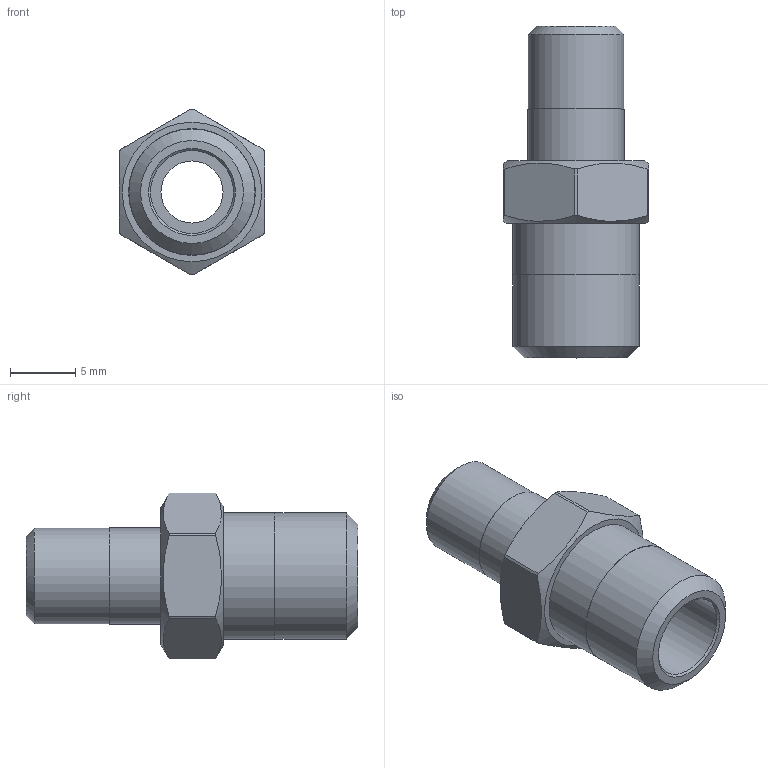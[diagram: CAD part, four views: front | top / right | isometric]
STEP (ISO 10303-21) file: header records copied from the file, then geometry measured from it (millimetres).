
FILE_DESCRIPTION(/* description */ (''),/* implementation_level */ '2;1');
FILE_NAME(/* name */ 'C:/Users/drich/Desktop/MR18-1 v2.step',/* time_stamp */ '2020-02-09T10:57:49-06:00',/* author */ (''),/* organization */ (''),/* preprocessor_version */ 'ST-DEVELOPER v18',/* originating_system */ 'Autodesk Translation Framework v8.12.0.6',/* authorisation */ '');
FILE_SCHEMA (('AUTOMOTIVE_DESIGN { 1 0 10303 214 3 1 1 }'));
Length unit declared in the file: inch
Products named in the file (1): MR18-1
Bounding box: 11.1 x 25.4 x 12.7 mm (x, y, z)
Volume: 1063.6 mm3; surface area: 1302.9 mm2
Topology: 1 solids, 1 shells, 31 faces, 80 edges, 56 vertices
Faces by surface type: plane 13, cylinder 12, cone 6
Full cylindrical faces by diameter (mm): 4.75 x1, 6.35 x1, 7.316 x1, 7.367 x1, 9.652 x1, 9.703 x1
Entity records: 1016 total; most frequent: CARTESIAN_POINT 192, DIRECTION 176, ORIENTED_EDGE 160, EDGE_CURVE 80, AXIS2_PLACEMENT_3D 76, VERTEX_POINT 56, CIRCLE 44, EDGE_LOOP 38
